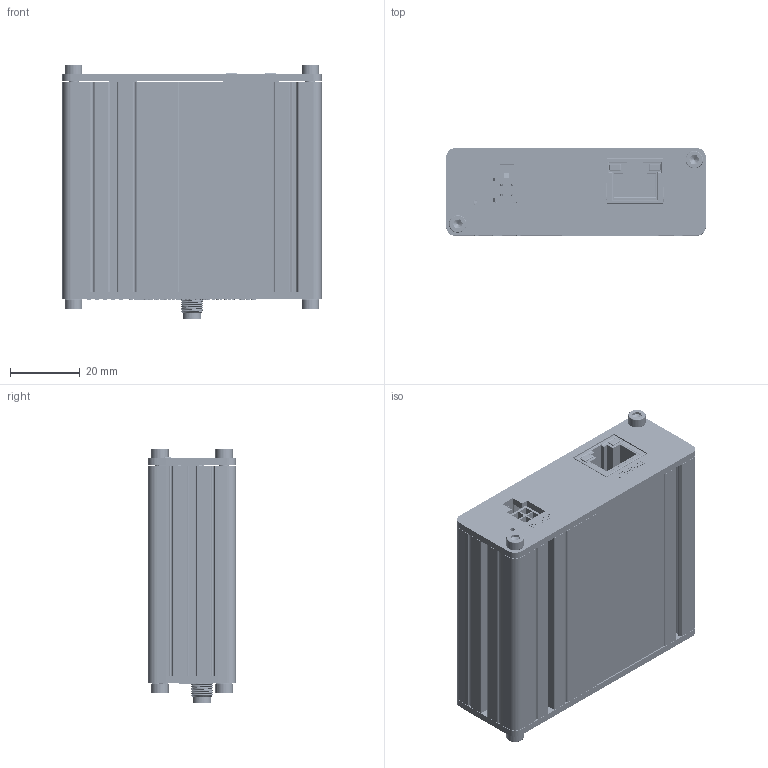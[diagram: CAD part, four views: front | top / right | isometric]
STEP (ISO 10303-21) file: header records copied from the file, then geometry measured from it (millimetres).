
FILE_DESCRIPTION (( 'STEP AP203' ), '1' );
FILE_NAME ('TRB140_T14XDHS004_T140DFP004_T140DRP004.STEP', '2022-11-09T07:33:55', ( '' ), ( '' ), 'SwSTEP 2.0', 'SolidWorks 2022', '' );
FILE_SCHEMA (( 'CONFIG_CONTROL_DESIGN' ));
Products named in the file (7): TRB140_Rear_Panel_T140DRP004_v4; O-ring(DIN 3771); Savisriegis 2.9x6.5; TRB140_v9.0; TRB140_Front_Panel_T140DFP004_v4; TRB140_T14XDHS004_T140DFP004_T140DRP004; TRB14x_housing_v4_T14XDHS004
Assembly tree (9 placements, depth 2):
  TRB140_T14XDHS004_T140DFP004_T140DRP004
    TRB14x_housing_v4_T14XDHS004
    TRB140_Rear_Panel_T140DRP004_v4
    TRB140_Front_Panel_T140DFP004_v4
    O-ring(DIN 3771)
    Savisriegis 2.9x6.5  x4
    TRB140_v9.0
Bounding box: 74.5 x 25 x 72.89 mm (x, y, z)
Volume: 36873.1 mm3; surface area: 59651.5 mm2
Topology: 8 solids, 831 shells, 22769 faces, 59107 edges, 38740 vertices
Faces by surface type: plane 12362, bspline 6898, cylinder 2813, sphere 576, torus 68, cone 52
Full cylindrical faces by diameter (mm): 0.65 x2, 0.9 x26, 1 x46, 1.4 x9, 1.7 x2, 2.7 x4, 2.9 x4, 3.25 x2, 3.3 x4, 5 x4, 6.3 x4, 6.8 x1
Entity records: 787214 total; most frequent: CARTESIAN_POINT 284446, ORIENTED_EDGE 117145, DIRECTION 77911, EDGE_CURVE 58734, VERTEX_POINT 38632, VECTOR 36317, LINE 36317, EDGE_LOOP 23869
